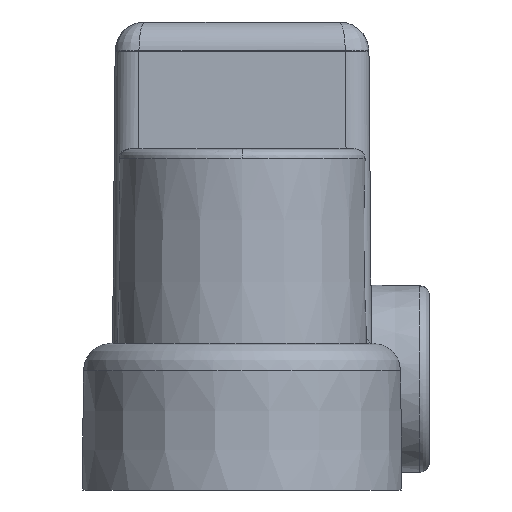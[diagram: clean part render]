
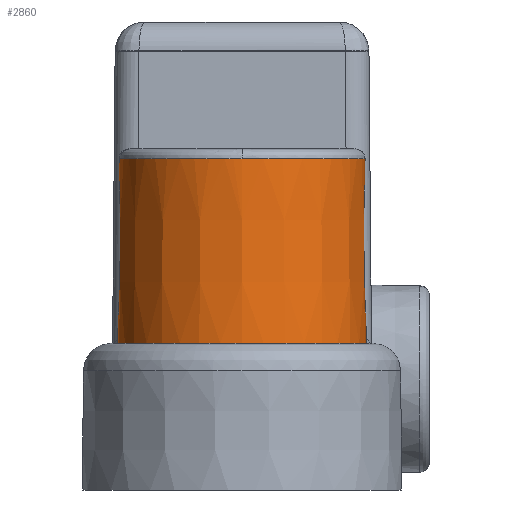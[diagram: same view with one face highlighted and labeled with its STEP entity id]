
A CAD part, left-side view. The second image highlights one B-rep face of the part: STEP entity #2860.
In plain terms, the highlighted conical face has half-angle 0.5 degrees and reference radius 6.285 mm.
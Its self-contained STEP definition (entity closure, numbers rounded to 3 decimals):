
#542=B_SPLINE_CURVE_WITH_KNOTS('',3,(#13621,#13622,#13623,#13624,#13625,
#13626,#13627,#13628,#13629,#13630,#13631,#13632,#13633),.UNSPECIFIED.,
 .F.,.F.,(4,1,1,1,1,1,1,1,1,1,4),(0.,0.063,0.125,
0.25,0.375,0.5,0.625,0.75,
0.875,0.937,1.),.UNSPECIFIED.);
#547=B_SPLINE_CURVE_WITH_KNOTS('',3,(#14156,#14157,#14158,#14159,#14160,
#14161,#14162,#14163,#14164,#14165,#14166,#14167,#14168),.UNSPECIFIED.,
 .F.,.F.,(4,1,1,1,1,1,1,1,1,1,4),(0.,0.063,0.125,
0.25,0.375,0.5,0.625,0.75,
0.875,0.937,1.),.UNSPECIFIED.);
#2860=ADVANCED_FACE('',(#3007,#3008),#2941,.T.);
#2941=CONICAL_SURFACE('',#5853,6.286,0.5);
#3007=FACE_BOUND('',#3233,.T.);
#3008=FACE_BOUND('',#3234,.T.);
#3233=EDGE_LOOP('',(#4079,#4080));
#3234=EDGE_LOOP('',(#4081));
#4079=ORIENTED_EDGE('',*,*,#5368,.F.);
#4080=ORIENTED_EDGE('',*,*,#5363,.F.);
#4081=ORIENTED_EDGE('',*,*,#5284,.T.);
#4677=VERTEX_POINT('',#12384);
#4720=VERTEX_POINT('',#13634);
#4721=VERTEX_POINT('',#13635);
#5284=EDGE_CURVE('',#4677,#4677,#5624,.T.);
#5363=EDGE_CURVE('',#4720,#4721,#542,.T.);
#5368=EDGE_CURVE('',#4721,#4720,#547,.T.);
#5624=CIRCLE('',#5816,6.286);
#5816=AXIS2_PLACEMENT_3D('',#12383,#6374,#6375);
#5853=AXIS2_PLACEMENT_3D('',#14338,#6475,#6476);
#6374=DIRECTION('',(0.,0.,1.));
#6375=DIRECTION('',(1.,0.,0.));
#6475=DIRECTION('',(0.,0.,-1.));
#6476=DIRECTION('',(-1.,0.,0.));
#12383=CARTESIAN_POINT('',(-42.5,0.,-14.7));
#12384=CARTESIAN_POINT('',(-36.214,0.,-14.7));
#13621=CARTESIAN_POINT('',(-36.296,0.,-5.396));
#13622=CARTESIAN_POINT('',(-36.296,0.405,-5.396));
#13623=CARTESIAN_POINT('',(-36.376,1.219,-5.396));
#13624=CARTESIAN_POINT('',(-36.847,2.775,-5.396));
#13625=CARTESIAN_POINT('',(-37.999,4.503,-5.396));
#13626=CARTESIAN_POINT('',(-40.064,5.881,-5.396));
#13627=CARTESIAN_POINT('',(-42.5,6.366,-5.396));
#13628=CARTESIAN_POINT('',(-44.936,5.881,-5.396));
#13629=CARTESIAN_POINT('',(-47.001,4.503,-5.396));
#13630=CARTESIAN_POINT('',(-48.153,2.775,-5.396));
#13631=CARTESIAN_POINT('',(-48.624,1.219,-5.396));
#13632=CARTESIAN_POINT('',(-48.704,0.405,-5.396));
#13633=CARTESIAN_POINT('',(-48.704,0.,-5.396));
#13634=CARTESIAN_POINT('',(-36.296,0.,-5.396));
#13635=CARTESIAN_POINT('',(-48.704,0.,-5.396));
#14156=CARTESIAN_POINT('',(-48.704,0.,-5.396));
#14157=CARTESIAN_POINT('',(-48.704,-0.405,-5.396));
#14158=CARTESIAN_POINT('',(-48.624,-1.219,-5.396));
#14159=CARTESIAN_POINT('',(-48.153,-2.775,-5.396));
#14160=CARTESIAN_POINT('',(-47.001,-4.503,-5.396));
#14161=CARTESIAN_POINT('',(-44.936,-5.881,-5.396));
#14162=CARTESIAN_POINT('',(-42.5,-6.366,-5.396));
#14163=CARTESIAN_POINT('',(-40.064,-5.881,-5.396));
#14164=CARTESIAN_POINT('',(-37.999,-4.503,-5.396));
#14165=CARTESIAN_POINT('',(-36.847,-2.775,-5.396));
#14166=CARTESIAN_POINT('',(-36.376,-1.219,-5.396));
#14167=CARTESIAN_POINT('',(-36.296,-0.405,-5.396));
#14168=CARTESIAN_POINT('',(-36.296,0.,-5.396));
#14338=CARTESIAN_POINT('',(-42.5,0.,-14.7));
